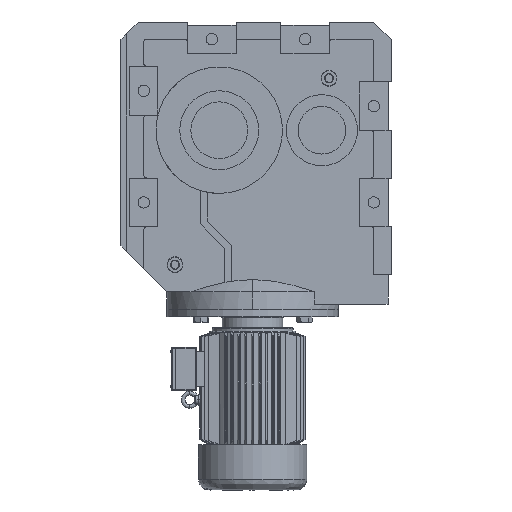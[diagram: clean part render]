
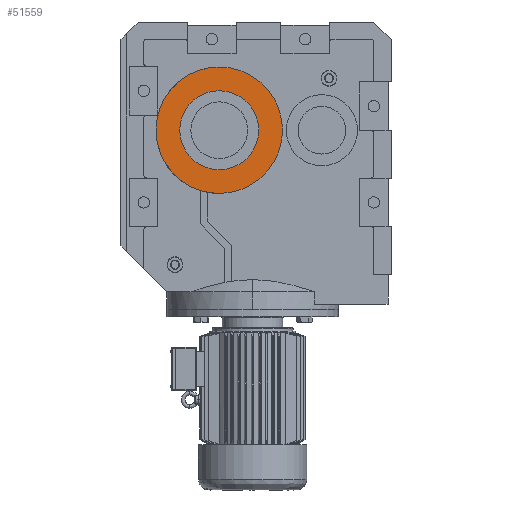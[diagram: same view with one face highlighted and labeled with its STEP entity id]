
A CAD part, left-side view. The second image highlights one B-rep face of the part: STEP entity #51559.
In plain terms, the highlighted planar face has unit normal (-1, 0, 0).
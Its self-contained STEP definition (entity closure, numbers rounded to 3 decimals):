
#3861 = FACE_BOUND ( 'NONE', #41851, .T. ) ;
#4119 = ORIENTED_EDGE ( 'NONE', *, *, #6165, .F. ) ;
#5492 = PLANE ( 'NONE',  #14732 ) ;
#5640 = DIRECTION ( 'NONE',  ( 1., 0., 0. ) ) ;
#6118 = CARTESIAN_POINT ( 'NONE',  ( -670.92, 185.831, 218.5 ) ) ;
#6165 = EDGE_CURVE ( 'NONE', #38925, #36894, #51915, .T. ) ;
#6525 = DIRECTION ( 'NONE',  ( -1., 0., 0. ) ) ;
#10361 = ORIENTED_EDGE ( 'NONE', *, *, #12686, .F. ) ;
#10915 = AXIS2_PLACEMENT_3D ( 'NONE', #41139, #5640, #21366 ) ;
#12686 = EDGE_CURVE ( 'NONE', #36894, #38925, #40078, .T. ) ;
#14732 = AXIS2_PLACEMENT_3D ( 'NONE', #46212, #6525, #22956 ) ;
#15410 = CIRCLE ( 'NONE', #33566, 115. ) ;
#16424 = ORIENTED_EDGE ( 'NONE', *, *, #25944, .T. ) ;
#20144 = AXIS2_PLACEMENT_3D ( 'NONE', #51489, #43020, #39244 ) ;
#20311 = AXIS2_PLACEMENT_3D ( 'NONE', #48980, #29043, #44186 ) ;
#21366 = DIRECTION ( 'NONE',  ( 0., 0., -1. ) ) ;
#22956 = DIRECTION ( 'NONE',  ( 0., 0., 1. ) ) ;
#25242 = CARTESIAN_POINT ( 'NONE',  ( -670.92, 185.831, -80.5 ) ) ;
#25944 = EDGE_CURVE ( 'NONE', #45429, #32798, #15410, .T. ) ;
#29043 = DIRECTION ( 'NONE',  ( 1., 0., 0. ) ) ;
#32798 = VERTEX_POINT ( 'NONE', #6118 ) ;
#33566 = AXIS2_PLACEMENT_3D ( 'NONE', #47046, #47736, #39014 ) ;
#36894 = VERTEX_POINT ( 'NONE', #25242 ) ;
#38018 = CARTESIAN_POINT ( 'NONE',  ( -670.92, 185.831, -11.5 ) ) ;
#38925 = VERTEX_POINT ( 'NONE', #40553 ) ;
#39014 = DIRECTION ( 'NONE',  ( 0., 0., -1. ) ) ;
#39037 = CIRCLE ( 'NONE', #20144, 115. ) ;
#39244 = DIRECTION ( 'NONE',  ( 0., 0., -1. ) ) ;
#40078 = CIRCLE ( 'NONE', #10915, 184. ) ;
#40553 = CARTESIAN_POINT ( 'NONE',  ( -670.92, 185.831, 287.5 ) ) ;
#41139 = CARTESIAN_POINT ( 'NONE',  ( -670.92, 185.831, 103.5 ) ) ;
#41851 = EDGE_LOOP ( 'NONE', ( #16424, #43760 ) ) ;
#42733 = EDGE_CURVE ( 'NONE', #32798, #45429, #39037, .T. ) ;
#43020 = DIRECTION ( 'NONE',  ( 1., 0., 0. ) ) ;
#43760 = ORIENTED_EDGE ( 'NONE', *, *, #42733, .T. ) ;
#44186 = DIRECTION ( 'NONE',  ( 0., 0., -1. ) ) ;
#45429 = VERTEX_POINT ( 'NONE', #38018 ) ;
#46212 = CARTESIAN_POINT ( 'NONE',  ( -670.92, 185.831, 103.5 ) ) ;
#47046 = CARTESIAN_POINT ( 'NONE',  ( -670.92, 185.831, 103.5 ) ) ;
#47736 = DIRECTION ( 'NONE',  ( 1., 0., 0. ) ) ;
#48980 = CARTESIAN_POINT ( 'NONE',  ( -670.92, 185.831, 103.5 ) ) ;
#49563 = FACE_OUTER_BOUND ( 'NONE', #51630, .T. ) ;
#51489 = CARTESIAN_POINT ( 'NONE',  ( -670.92, 185.831, 103.5 ) ) ;
#51559 = ADVANCED_FACE ( 'NONE', ( #49563, #3861 ), #5492, .T. ) ;
#51630 = EDGE_LOOP ( 'NONE', ( #10361, #4119 ) ) ;
#51915 = CIRCLE ( 'NONE', #20311, 184. ) ;
